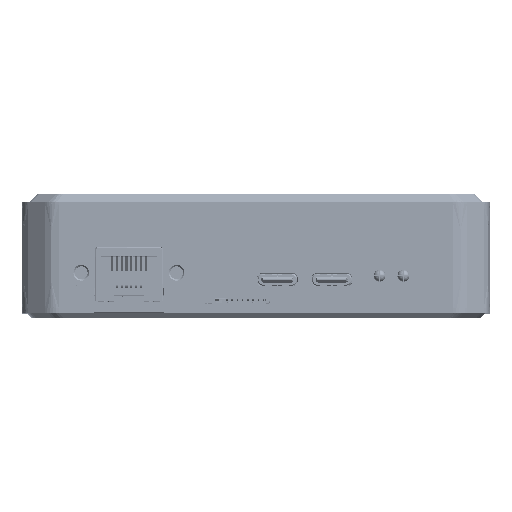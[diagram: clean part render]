
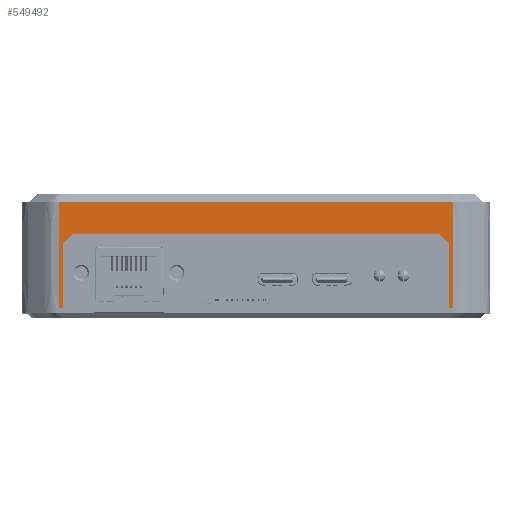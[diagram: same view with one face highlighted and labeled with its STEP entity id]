
A CAD part, top view. The second image highlights one B-rep face of the part: STEP entity #549492.
In plain terms, the highlighted planar face has unit normal (0, 0, 1).
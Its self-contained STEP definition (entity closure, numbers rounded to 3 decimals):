
#524639=CARTESIAN_POINT('',(41.349,18.7,
50.));
#524641=DIRECTION('',(-1.,0.,0.));
#524642=VECTOR('',#524641,82.698);
#524643=CARTESIAN_POINT('',(41.349,18.7,
50.));
#524644=LINE('',#524643,#524642);
#524741=DIRECTION('',(1.,0.,0.));
#524742=VECTOR('',#524741,0.8);
#524743=CARTESIAN_POINT('',(40.549,-3.5,50.));
#524744=LINE('',#524743,#524742);
#525023=CARTESIAN_POINT('',(-41.349,-3.5,
50.));
#525025=DIRECTION('',(1.,0.,0.));
#525026=VECTOR('',#525025,0.8);
#525027=CARTESIAN_POINT('',(-41.349,-3.5,
50.));
#525028=LINE('',#525027,#525026);
#531630=DIRECTION('',(0.,1.,0.));
#531631=VECTOR('',#531630,21.8);
#531632=CARTESIAN_POINT('',(-41.349,-3.5,
50.));
#531633=LINE('',#531632,#531631);
#531634=DIRECTION('',(0.,-1.,0.));
#531635=VECTOR('',#531634,21.8);
#531636=CARTESIAN_POINT('',(41.349,18.3,
50.));
#531637=LINE('',#531636,#531635);
#531638=DIRECTION('',(0.,1.,0.));
#531639=VECTOR('',#531638,13.326);
#531640=CARTESIAN_POINT('',(40.549,-3.5,50.));
#531641=LINE('',#531640,#531639);
#531642=CARTESIAN_POINT('',(40.249,9.826,50.));
#531643=DIRECTION('',(0.,0.,1.));
#531644=DIRECTION('',(1.,0.,0.));
#531645=AXIS2_PLACEMENT_3D('',#531642,#531643,#531644);
#531647=DIRECTION('',(-0.707,0.707,0.));
#531648=VECTOR('',#531647,2.58);
#531649=CARTESIAN_POINT('',(40.461,10.038,50.));
#531650=LINE('',#531649,#531648);
#531651=CARTESIAN_POINT('',(38.424,11.65,50.));
#531652=DIRECTION('',(0.,0.,1.));
#531653=DIRECTION('',(0.707,0.707,0.));
#531654=AXIS2_PLACEMENT_3D('',#531651,#531652,#531653);
#531656=DIRECTION('',(-1.,0.,0.));
#531657=VECTOR('',#531656,76.849);
#531658=CARTESIAN_POINT('',(38.424,11.95,50.));
#531659=LINE('',#531658,#531657);
#531660=CARTESIAN_POINT('',(-38.424,11.65,50.));
#531661=DIRECTION('',(0.,0.,1.));
#531662=DIRECTION('',(0.,1.,0.));
#531663=AXIS2_PLACEMENT_3D('',#531660,#531661,#531662);
#531665=DIRECTION('',(-0.707,-0.707,0.));
#531666=VECTOR('',#531665,2.58);
#531667=CARTESIAN_POINT('',(-38.637,11.862,50.));
#531668=LINE('',#531667,#531666);
#531669=CARTESIAN_POINT('',(-40.249,9.826,50.));
#531670=DIRECTION('',(0.,0.,1.));
#531671=DIRECTION('',(-0.707,0.707,0.));
#531672=AXIS2_PLACEMENT_3D('',#531669,#531670,#531671);
#531728=CARTESIAN_POINT('',(-41.349,18.3,
50.));
#531738=DIRECTION('',(0.,-1.,0.));
#531739=VECTOR('',#531738,0.4);
#531740=CARTESIAN_POINT('',(-41.349,18.7,
50.));
#531741=LINE('',#531740,#531739);
#531748=DIRECTION('',(0.,1.,0.));
#531749=VECTOR('',#531748,0.4);
#531750=CARTESIAN_POINT('',(41.349,18.3,
50.));
#531751=LINE('',#531750,#531749);
#532780=DIRECTION('',(0.,1.,0.));
#532781=VECTOR('',#532780,13.326);
#532782=CARTESIAN_POINT('',(-40.549,-3.5,50.));
#532783=LINE('',#532782,#532781);
#536193=CARTESIAN_POINT('',(40.549,-3.5,50.));
#536194=VERTEX_POINT('',#536193);
#536195=CARTESIAN_POINT('',(41.349,-3.5,
50.));
#536196=VERTEX_POINT('',#536195);
#536438=VERTEX_POINT('',#525023);
#536439=CARTESIAN_POINT('',(-40.549,-3.5,50.));
#536440=VERTEX_POINT('',#536439);
#537632=VERTEX_POINT('',#524639);
#537633=CARTESIAN_POINT('',(-41.349,18.7,
50.));
#537634=VERTEX_POINT('',#537633);
#537677=VERTEX_POINT('',#531728);
#537678=CARTESIAN_POINT('',(41.349,18.3,
50.));
#537679=VERTEX_POINT('',#537678);
#537680=CARTESIAN_POINT('',(40.549,9.826,50.));
#537681=VERTEX_POINT('',#537680);
#537682=CARTESIAN_POINT('',(40.461,10.038,50.));
#537683=VERTEX_POINT('',#537682);
#537684=CARTESIAN_POINT('',(38.637,11.862,50.));
#537685=VERTEX_POINT('',#537684);
#537686=CARTESIAN_POINT('',(38.424,11.95,50.));
#537687=VERTEX_POINT('',#537686);
#537688=CARTESIAN_POINT('',(-38.424,11.95,50.));
#537689=VERTEX_POINT('',#537688);
#537690=CARTESIAN_POINT('',(-38.637,11.862,50.));
#537691=VERTEX_POINT('',#537690);
#537692=CARTESIAN_POINT('',(-40.461,10.038,50.));
#537693=VERTEX_POINT('',#537692);
#537694=CARTESIAN_POINT('',(-40.549,9.826,50.));
#537695=VERTEX_POINT('',#537694);
#549457=CARTESIAN_POINT('',(-49.631,17.512,50.));
#549458=DIRECTION('',(0.,0.,1.));
#549459=DIRECTION('',(1.,0.,0.));
#549460=AXIS2_PLACEMENT_3D('',#549457,#549458,#549459);
#549461=PLANE('',#549460);
#549462=ORIENTED_EDGE('',*,*,#540260,.F.);
#549464=ORIENTED_EDGE('',*,*,#549463,.T.);
#549466=ORIENTED_EDGE('',*,*,#549465,.F.);
#549467=ORIENTED_EDGE('',*,*,#539898,.F.);
#549469=ORIENTED_EDGE('',*,*,#549468,.F.);
#549470=ORIENTED_EDGE('',*,*,#549449,.T.);
#549471=ORIENTED_EDGE('',*,*,#540007,.F.);
#549473=ORIENTED_EDGE('',*,*,#549472,.T.);
#549475=ORIENTED_EDGE('',*,*,#549474,.T.);
#549477=ORIENTED_EDGE('',*,*,#549476,.T.);
#549479=ORIENTED_EDGE('',*,*,#549478,.T.);
#549481=ORIENTED_EDGE('',*,*,#549480,.T.);
#549483=ORIENTED_EDGE('',*,*,#549482,.T.);
#549485=ORIENTED_EDGE('',*,*,#549484,.T.);
#549487=ORIENTED_EDGE('',*,*,#549486,.T.);
#549489=ORIENTED_EDGE('',*,*,#549488,.F.);
#549490=EDGE_LOOP('',(#549462,#549464,#549466,#549467,#549469,#549470,#549471,
#549473,#549475,#549477,#549479,#549481,#549483,#549485,#549487,#549489));
#549491=FACE_OUTER_BOUND('',#549490,.F.);
#531646=CIRCLE('',#531645,0.3);
#531655=CIRCLE('',#531654,0.3);
#531664=CIRCLE('',#531663,0.3);
#531673=CIRCLE('',#531672,0.3);
#539898=EDGE_CURVE('',#537632,#537634,#524644,.T.);
#540007=EDGE_CURVE('',#536194,#536196,#524744,.T.);
#540260=EDGE_CURVE('',#536438,#536440,#525028,.T.);
#549449=EDGE_CURVE('',#537679,#536196,#531637,.T.);
#549463=EDGE_CURVE('',#536438,#537677,#531633,.T.);
#549465=EDGE_CURVE('',#537634,#537677,#531741,.T.);
#549468=EDGE_CURVE('',#537679,#537632,#531751,.T.);
#549472=EDGE_CURVE('',#536194,#537681,#531641,.T.);
#549474=EDGE_CURVE('',#537681,#537683,#531646,.T.);
#549476=EDGE_CURVE('',#537683,#537685,#531650,.T.);
#549478=EDGE_CURVE('',#537685,#537687,#531655,.T.);
#549480=EDGE_CURVE('',#537687,#537689,#531659,.T.);
#549482=EDGE_CURVE('',#537689,#537691,#531664,.T.);
#549484=EDGE_CURVE('',#537691,#537693,#531668,.T.);
#549486=EDGE_CURVE('',#537693,#537695,#531673,.T.);
#549488=EDGE_CURVE('',#536440,#537695,#532783,.T.);
#549492=ADVANCED_FACE('',(#549491),#549461,.T.);
